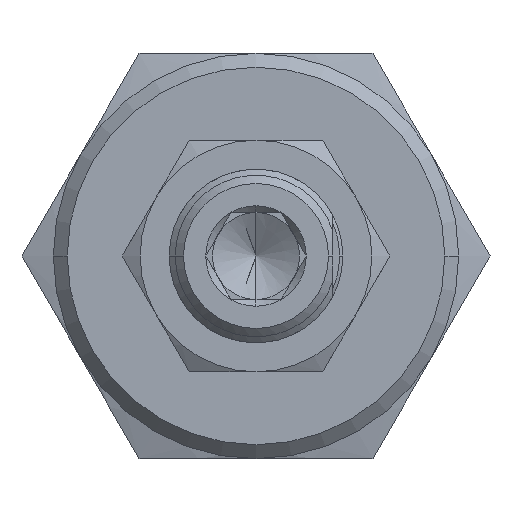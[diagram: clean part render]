
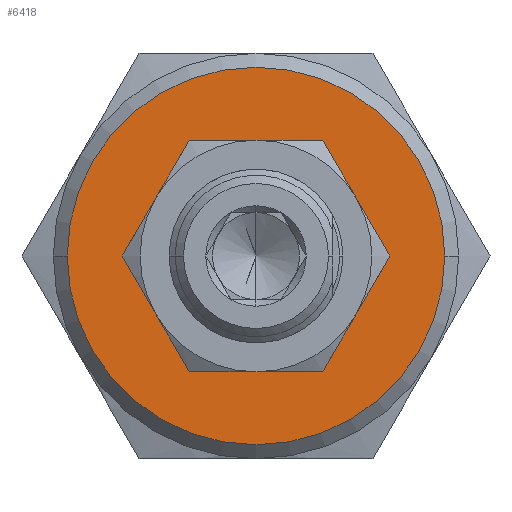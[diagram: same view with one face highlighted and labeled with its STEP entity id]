
A CAD part, left-side view. The second image highlights one B-rep face of the part: STEP entity #6418.
In plain terms, the highlighted planar face has unit normal (-1, 0, 0).
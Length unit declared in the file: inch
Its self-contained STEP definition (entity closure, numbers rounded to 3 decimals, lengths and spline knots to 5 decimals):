
#2346=CARTESIAN_POINT('',(-1.594,0.4075,0.));
#2347=VERTEX_POINT('',#2346);
#2363=CARTESIAN_POINT('',(-1.594,-0.4075,0.));
#2364=VERTEX_POINT('',#2363);
#2371=CARTESIAN_POINT('',(-1.594,0.0,0.));
#2372=DIRECTION('',(-1.0,0.0,0.0));
#2373=DIRECTION('',(0.0,1.0,0.0));
#2374=AXIS2_PLACEMENT_3D('',#2371,#2372,#2373);
#2375=CIRCLE('',#2374,0.4075);
#2376=EDGE_CURVE('',#2347,#2364,#2375,.T.);
#4066=CARTESIAN_POINT('',(-1.594,0.21651,0.125));
#4067=VERTEX_POINT('',#4066);
#4081=CARTESIAN_POINT('',(-1.594,0.0,0.25));
#4082=VERTEX_POINT('',#4081);
#4096=CARTESIAN_POINT('',(-1.594,0.,0.));
#4097=DIRECTION('',(1.0,0.0,0.0));
#4098=DIRECTION('',(0.0,0.0,1.0));
#4099=AXIS2_PLACEMENT_3D('',#4096,#4097,#4098);
#4100=CIRCLE('',#4099,0.25);
#4101=EDGE_CURVE('',#4067,#4082,#4100,.T.);
#4113=CARTESIAN_POINT('',(-1.594,0.21651,-0.125));
#4114=VERTEX_POINT('',#4113);
#4141=CARTESIAN_POINT('',(-1.594,0.,0.));
#4142=DIRECTION('',(1.0,0.0,0.0));
#4143=DIRECTION('',(0.0,0.0,1.0));
#4144=AXIS2_PLACEMENT_3D('',#4141,#4142,#4143);
#4145=CIRCLE('',#4144,0.25);
#4146=EDGE_CURVE('',#4114,#4067,#4145,.T.);
#4158=CARTESIAN_POINT('',(-1.594,0.0,-0.25));
#4159=VERTEX_POINT('',#4158);
#4186=CARTESIAN_POINT('',(-1.594,0.,0.));
#4187=DIRECTION('',(1.0,0.0,0.0));
#4188=DIRECTION('',(0.0,0.0,1.0));
#4189=AXIS2_PLACEMENT_3D('',#4186,#4187,#4188);
#4190=CIRCLE('',#4189,0.25);
#4191=EDGE_CURVE('',#4159,#4114,#4190,.T.);
#4216=CARTESIAN_POINT('',(-1.594,-0.21651,-0.125));
#4217=VERTEX_POINT('',#4216);
#4218=CARTESIAN_POINT('',(-1.594,0.,0.));
#4219=DIRECTION('',(1.0,0.0,0.0));
#4220=DIRECTION('',(0.0,0.0,1.0));
#4221=AXIS2_PLACEMENT_3D('',#4218,#4219,#4220);
#4222=CIRCLE('',#4221,0.25);
#4223=EDGE_CURVE('',#4217,#4159,#4222,.T.);
#4261=CARTESIAN_POINT('',(-1.594,-0.21651,0.125));
#4262=VERTEX_POINT('',#4261);
#4263=CARTESIAN_POINT('',(-1.594,0.,0.));
#4264=DIRECTION('',(1.0,0.0,0.0));
#4265=DIRECTION('',(0.0,0.0,1.0));
#4266=AXIS2_PLACEMENT_3D('',#4263,#4264,#4265);
#4267=CIRCLE('',#4266,0.25);
#4268=EDGE_CURVE('',#4262,#4217,#4267,.T.);
#4306=CARTESIAN_POINT('',(-1.594,0.,0.));
#4307=DIRECTION('',(1.0,0.0,0.0));
#4308=DIRECTION('',(0.0,0.0,1.0));
#4309=AXIS2_PLACEMENT_3D('',#4306,#4307,#4308);
#4310=CIRCLE('',#4309,0.25);
#4311=EDGE_CURVE('',#4082,#4262,#4310,.T.);
#6389=CARTESIAN_POINT('',(-1.594,0.0,0.));
#6390=DIRECTION('',(-1.0,0.0,0.0));
#6391=DIRECTION('',(0.0,1.0,0.0));
#6392=AXIS2_PLACEMENT_3D('',#6389,#6390,#6391);
#6393=CIRCLE('',#6392,0.4075);
#6394=EDGE_CURVE('',#2364,#2347,#6393,.T.);
#6401=CARTESIAN_POINT('',(-1.594,0.20375,0.));
#6402=DIRECTION('',(-1.0,0.0,0.0));
#6403=DIRECTION('',(0.0,0.0,1.0));
#6404=AXIS2_PLACEMENT_3D('',#6401,#6402,#6403);
#6405=PLANE('',#6404);
#6406=ORIENTED_EDGE('',*,*,#2376,.T.);
#6407=ORIENTED_EDGE('',*,*,#6394,.T.);
#6408=EDGE_LOOP('',(#6406,#6407));
#6409=FACE_OUTER_BOUND('',#6408,.T.);
#6410=ORIENTED_EDGE('',*,*,#4101,.T.);
#6411=ORIENTED_EDGE('',*,*,#4311,.T.);
#6412=ORIENTED_EDGE('',*,*,#4268,.T.);
#6413=ORIENTED_EDGE('',*,*,#4223,.T.);
#6414=ORIENTED_EDGE('',*,*,#4191,.T.);
#6415=ORIENTED_EDGE('',*,*,#4146,.T.);
#6416=EDGE_LOOP('',(#6410,#6411,#6412,#6413,#6414,#6415));
#6417=FACE_BOUND('',#6416,.T.);
#6418=ADVANCED_FACE('',(#6409,#6417),#6405,.T.);
